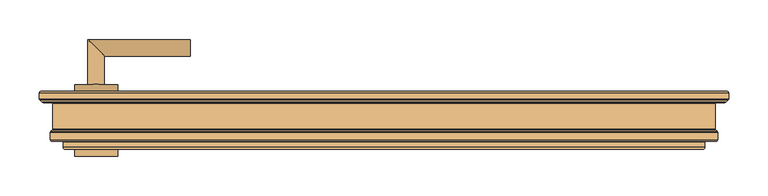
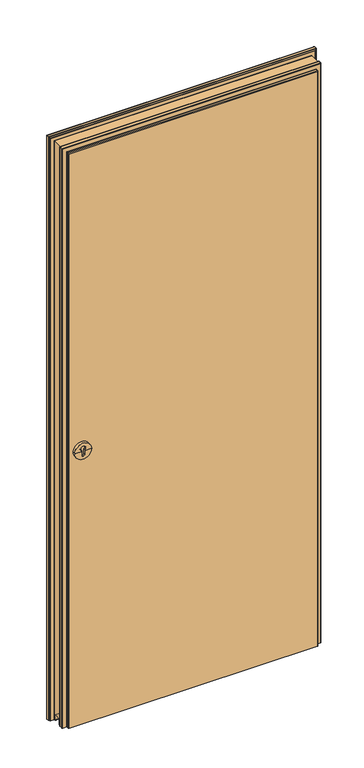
"""IFC4 building model written with IfcOpenShell, lengths in millimetres: door geometry, Peneder_HIGHLINEflat_1-flügelig_V2019 : Zargentyp - 01 - Eck 60 DN."""

from ifc_helpers import new_model, si_unit, frame, origin, place, context, project, spatial, polyline, circle_curve, ellipse_curve, source, transform, mapped, element, save
from ifc_brep_helpers import plane_surface, cylinder_surface, revolved_surface, advanced_brep


def door_bbc19964(model_context):
    return source(origin(), model_context, "Body", "AdvancedBrep", [
        advanced_brep(
        [(-337.5, 56.0, 958.0), (-392.5, 56.0, 958.0), (-392.5, 65.0, 958.0), (-337.5, 65.0, 958.0), (-360.0, 56.0, 958.0), (-360.0, 56.0, 945.8645067), (-370.0, 56.0, 945.8645067), (-370.0, 56.0, 958.0), (-370.0, 56.0, 960.8645067), (-360.0, 56.0, 960.8645067), (-365.0, 65.0, 958.0), (-370.0, 62.0, 945.8645067), (-360.0, 62.0, 945.8645067), (-360.0, 62.0, 960.8645067), (-370.0, 62.0, 960.8645067)],
        [
            (0, 1, circle_curve(frame((-365.0, 56.0, 958.0), z_axis=(0.0, 1.0, 0.0), x_axis=(-1.0, 0.0, 0.0)), 27.5)),
            (1, 2),
            (2, 3, circle_curve(frame((-365.0, 65.0, 958.0), z_axis=(0.0, -1.0, 0.0), x_axis=(-1.0, 0.0, 0.0)), 27.5)),
            (3, 0),
            (1, 0, circle_curve(frame((-365.0, 56.0, 958.0), z_axis=(0.0, 1.0, 0.0), x_axis=(-1.0, 0.0, 0.0)), 27.5)),
            (3, 2, circle_curve(frame((-365.0, 65.0, 958.0), z_axis=(0.0, -1.0, 0.0), x_axis=(-1.0, 0.0, 0.0)), 27.5)),
            (0, 4),
            (4, 5),
            (5, 6, circle_curve(frame((-365.0, 56.0, 945.8645067), z_axis=(0.0, 1.0, 0.0), x_axis=(-1.0, 0.0, 0.0)), 5.0)),
            (6, 7),
            (7, 1),
            (7, 8),
            (8, 9, circle_curve(frame((-365.0, 56.0, 967.690169), z_axis=(0.0, 1.0, 0.0), x_axis=(-1.0, 0.0, 0.0)), 8.4610677)),
            (9, 4),
            (2, 10),
            (10, 3),
            (11, 12, circle_curve(frame((-365.0, 62.0, 945.8645067), z_axis=(0.0, -1.0, 0.0), x_axis=(-1.0, 0.0, 0.0)), 5.0)),
            (12, 13),
            (13, 14, circle_curve(frame((-365.0, 62.0, 967.690169), z_axis=(0.0, -1.0, 0.0), x_axis=(-1.0, 0.0, 0.0)), 8.4610677)),
            (14, 11),
            (11, 6),
            (5, 12),
            (9, 13),
            (8, 14),
        ],
        [
            cylinder_surface(frame((-365.0, 72.1832023, 958.0), z_axis=(0.0, -1.0, 0.0), x_axis=(-1.0, 0.0, 0.0)), 27.5),
            plane_surface(frame((-365.0, 56.0, 958.0), z_axis=(0.0, -1.0, 0.0), x_axis=(-1.0, 0.0, 0.0))),
            plane_surface(frame((-365.0, 65.0, 958.0), z_axis=(0.0, 1.0, 0.0), x_axis=(-1.0, 0.0, 0.0))),
            plane_surface(frame((-370.0, 62.0, 960.8645067), z_axis=(0.0, -1.0, 0.0), x_axis=(0.0, 0.0, 1.0))),
            revolved_surface(polyline([(-370.0, 62.0, 945.8645067), (-370.0, 56.0, 945.8645067)]), (-365.0, 52.0, 945.8645067), (0.0, 1.0, 0.0)),
            plane_surface(frame((-360.0, 62.0, 960.8645067), z_axis=(-1.0, 0.0, 0.0), x_axis=(0.0, -1.0, 0.0))),
            revolved_surface(polyline([(-373.4610677, 62.0, 967.690169), (-373.4610677, 56.0, 967.690169)]), (-365.0, 52.0, 967.690169), (0.0, 1.0, 0.0)),
            plane_surface(frame((-370.0, 62.0, 945.8645067), z_axis=(1.0, 0.0, 0.0), x_axis=(0.0, -1.0, 0.0))),
        ],
        [
            (0, [[1, 2, 3, 4]]),
            (0, [[-2, 5, -4, 6]]),
            (1, [[-1, 7, 8, 9, 10, 11]]),
            (1, [[-5, -11, 12, 13, 14, -7]]),
            (2, [[-3, 15, 16]]),
            (2, [[-6, -16, -15]]),
            (3, [[17, 18, 19, 20]]),
            (4, [[-17, 21, -9, 22]]),
            (5, [[-18, -22, -8, -14, 23]]),
            (6, [[-19, -23, -13, 24]]),
            (7, [[-20, -24, -12, -10, -21]]),
        ],
    ),
        advanced_brep(
        [(-375.5, 147.0, 1050.0), (-354.5, 147.0, 1050.0), (-354.5, 183.0, 1050.0), (-375.5, 204.0, 1050.0), (-245.5, 183.0, 1050.0), (-245.5, 204.0, 1050.0)],
        [
            (0, 1, circle_curve(frame((-365.0, 147.0, 1050.0), z_axis=(0.0, -1.0, 0.0), x_axis=(1.0, 0.0, 0.0)), 10.5)),
            (1, 0, circle_curve(frame((-365.0, 147.0, 1050.0), z_axis=(0.0, -1.0, 0.0), x_axis=(1.0, 0.0, 0.0)), 10.5)),
            (1, 2),
            (2, 3, ellipse_curve(frame((-365.0, 193.5, 1050.0), z_axis=(-0.7071067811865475, -0.7071067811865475, 0.0), x_axis=(0.7071067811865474, -0.7071067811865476, 0.0)), 14.8492424, 10.5)),
            (3, 0),
            (3, 2, ellipse_curve(frame((-365.0, 193.5, 1050.0), z_axis=(-0.7071067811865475, -0.7071067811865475, 0.0), x_axis=(0.7071067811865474, -0.7071067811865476, 0.0)), 14.8492424, 10.5)),
            (2, 4),
            (4, 5, circle_curve(frame((-245.5, 193.5, 1050.0), z_axis=(-1.0, 0.0, 0.0), x_axis=(0.0, -1.0, 0.0)), 10.5)),
            (5, 3),
            (5, 4, circle_curve(frame((-245.5, 193.5, 1050.0), z_axis=(-1.0, 0.0, 0.0), x_axis=(0.0, -1.0, 0.0)), 10.5)),
        ],
        [
            plane_surface(frame((-365.0, 147.0, 1050.0), z_axis=(0.0, -1.0, 0.0), x_axis=(0.0, 0.0, 1.0))),
            cylinder_surface(frame((-365.0, 147.0, 1050.0), z_axis=(0.0, -1.0, 0.0), x_axis=(1.0, 0.0, 0.0)), 10.5),
            cylinder_surface(frame((-365.0, 193.5, 1050.0), z_axis=(-1.0, 0.0, 0.0), x_axis=(0.0, -1.0, 0.0)), 10.5),
            plane_surface(frame((-245.5, 193.5, 1050.0), z_axis=(1.0, 0.0, 0.0), x_axis=(0.0, 0.0, 1.0))),
        ],
        [
            (0, [[1, 2]]),
            (1, [[3, 4, 5, -2]]),
            (1, [[-5, 6, -3, -1]]),
            (2, [[7, 8, 9, -4]]),
            (2, [[-9, 10, -7, -6]]),
            (3, [[-8, -10]]),
        ],
    ),
        advanced_brep(
        [(-337.5, 147.0, 1050.0), (-337.5, 138.0, 1050.0), (-392.5, 138.0, 1050.0), (-392.5, 147.0, 1050.0), (-365.0, 147.0, 1050.0), (-365.0, 138.0, 1050.0)],
        [
            (0, 1),
            (1, 2, circle_curve(frame((-365.0, 138.0, 1050.0), z_axis=(0.0, 1.0, 0.0), x_axis=(-1.0, 0.0, 0.0)), 27.5)),
            (2, 3),
            (3, 0, circle_curve(frame((-365.0, 147.0, 1050.0), z_axis=(0.0, -1.0, 0.0), x_axis=(-1.0, 0.0, 0.0)), 27.5)),
            (2, 1, circle_curve(frame((-365.0, 138.0, 1050.0), z_axis=(0.0, 1.0, 0.0), x_axis=(-1.0, 0.0, 0.0)), 27.5)),
            (0, 3, circle_curve(frame((-365.0, 147.0, 1050.0), z_axis=(0.0, -1.0, 0.0), x_axis=(-1.0, 0.0, 0.0)), 27.5)),
            (4, 0),
            (3, 4),
            (1, 5),
            (5, 2),
        ],
        [
            cylinder_surface(frame((-365.0, 120.2392865, 1050.0), z_axis=(0.0, 1.0, 0.0), x_axis=(-1.0, 0.0, 0.0)), 27.5),
            plane_surface(frame((-365.0, 147.0, 1050.0), z_axis=(0.0, 1.0, 0.0), x_axis=(-1.0, 0.0, 0.0))),
            plane_surface(frame((-365.0, 138.0, 1050.0), z_axis=(0.0, -1.0, 0.0), x_axis=(-1.0, 0.0, 0.0))),
        ],
        [
            (0, [[1, 2, 3, 4]]),
            (0, [[-3, 5, -1, 6]]),
            (1, [[7, -4, 8]]),
            (1, [[-8, -6, -7]]),
            (2, [[9, 10, -2]]),
            (2, [[-10, -9, -5]]),
        ],
    ),
        advanced_brep(
        [(-337.5, 147.0, 958.0), (-337.5, 138.0, 958.0), (-392.5, 138.0, 958.0), (-392.5, 147.0, 958.0), (-370.0, 147.0, 958.0), (-370.0, 147.0, 945.8645067), (-360.0, 147.0, 945.8645067), (-360.0, 147.0, 958.0), (-360.0, 147.0, 960.8645067), (-370.0, 147.0, 960.8645067), (-365.0, 138.0, 958.0), (-370.0, 141.0, 945.8645067), (-370.0, 141.0, 960.8645067), (-360.0, 141.0, 960.8645067), (-360.0, 141.0, 945.8645067)],
        [
            (0, 1),
            (1, 2, circle_curve(frame((-365.0, 138.0, 958.0), z_axis=(0.0, 1.0, 0.0), x_axis=(-1.0, 0.0, 0.0)), 27.5)),
            (2, 3),
            (3, 0, circle_curve(frame((-365.0, 147.0, 958.0), z_axis=(0.0, -1.0, 0.0), x_axis=(-1.0, 0.0, 0.0)), 27.5)),
            (2, 1, circle_curve(frame((-365.0, 138.0, 958.0), z_axis=(0.0, 1.0, 0.0), x_axis=(-1.0, 0.0, 0.0)), 27.5)),
            (0, 3, circle_curve(frame((-365.0, 147.0, 958.0), z_axis=(0.0, -1.0, 0.0), x_axis=(-1.0, 0.0, 0.0)), 27.5)),
            (3, 4),
            (4, 5),
            (5, 6, circle_curve(frame((-365.0, 147.0, 945.8645067), z_axis=(0.0, -1.0, 0.0), x_axis=(-1.0, 0.0, 0.0)), 5.0)),
            (6, 7),
            (7, 0),
            (7, 8),
            (8, 9, circle_curve(frame((-365.0, 147.0, 967.690169), z_axis=(0.0, -1.0, 0.0), x_axis=(-1.0, 0.0, 0.0)), 8.4610677)),
            (9, 4),
            (1, 10),
            (10, 2),
            (11, 12),
            (12, 13, circle_curve(frame((-365.0, 141.0, 967.690169), z_axis=(0.0, 1.0, 0.0), x_axis=(-1.0, 0.0, 0.0)), 8.4610677)),
            (13, 14),
            (14, 11, circle_curve(frame((-365.0, 141.0, 945.8645067), z_axis=(0.0, 1.0, 0.0), x_axis=(-1.0, 0.0, 0.0)), 5.0)),
            (14, 6),
            (5, 11),
            (13, 8),
            (12, 9),
        ],
        [
            cylinder_surface(frame((-365.0, 130.8167977, 958.0), z_axis=(0.0, 1.0, 0.0), x_axis=(-1.0, 0.0, 0.0)), 27.5),
            plane_surface(frame((-365.0, 147.0, 958.0), z_axis=(0.0, 1.0, 0.0), x_axis=(-1.0, 0.0, 0.0))),
            plane_surface(frame((-365.0, 138.0, 958.0), z_axis=(0.0, -1.0, 0.0), x_axis=(-1.0, 0.0, 0.0))),
            plane_surface(frame((-370.0, 141.0, 960.8645067), z_axis=(0.0, 1.0, 0.0), x_axis=(0.0, 0.0, 1.0))),
            revolved_surface(polyline([(-370.0, 141.0, 945.8645067), (-370.0, 147.0, 945.8645067)]), (-365.0, 151.0, 945.8645067), (0.0, -1.0, 0.0)),
            plane_surface(frame((-360.0, 141.0, 960.8645067), z_axis=(-1.0, 0.0, 0.0), x_axis=(0.0, 1.0, 0.0))),
            revolved_surface(polyline([(-373.4610677, 141.0, 967.690169), (-373.4610677, 147.0, 967.690169)]), (-365.0, 151.0, 967.690169), (0.0, -1.0, 0.0)),
            plane_surface(frame((-370.0, 141.0, 945.8645067), z_axis=(1.0, 0.0, 0.0), x_axis=(0.0, 1.0, 0.0))),
        ],
        [
            (0, [[1, 2, 3, 4]]),
            (0, [[5, -1, 6, -3]]),
            (1, [[7, 8, 9, 10, 11, -4]]),
            (1, [[-11, 12, 13, 14, -7, -6]]),
            (2, [[15, 16, -2]]),
            (2, [[-16, -15, -5]]),
            (3, [[17, 18, 19, 20]]),
            (4, [[21, -9, 22, -20]]),
            (5, [[23, -12, -10, -21, -19]]),
            (6, [[24, -13, -23, -18]]),
            (7, [[-22, -8, -14, -24, -17]]),
        ],
    ),
        advanced_brep(
        [(405.0, 65.0, 10.0), (-405.0, 65.0, 10.0), (-407.0, 67.0, 10.0), (-407.0, 74.0, 10.0), (-408.0, 75.0, 10.0), (-421.0, 75.0, 10.0), (-423.0, 77.0, 10.0), (-423.0, 86.1715729, 10.0), (-422.4142136, 87.5857864, 10.0), (-420.2928932, 89.7071068, 10.0), (-420.0, 90.4142136, 10.0), (-420.0, 94.5, 10.0), (420.0, 94.5, 10.0), (420.0, 90.4142136, 10.0), (420.2928932, 89.7071068, 10.0), (422.4142136, 87.5857864, 10.0), (423.0, 86.1715729, 10.0), (423.0, 77.0, 10.0), (421.0, 75.0, 10.0), (408.0, 75.0, 10.0), (407.0, 74.0, 10.0), (407.0, 67.0, 10.0), (-437.0, 128.8284271, 10.0), (-437.0, 136.0, 10.0), (-435.0, 138.0, 10.0), (435.0, 138.0, 10.0), (437.0, 136.0, 10.0), (437.0, 128.8284271, 10.0), (436.4142136, 127.4142136, 10.0), (433.5857864, 124.5857864, 10.0), (432.1715729, 124.0, 10.0), (421.0, 124.0, 10.0), (420.0, 123.0, 10.0), (420.0, 119.5, 10.0), (-420.0, 119.5, 10.0), (-420.0, 123.0, 10.0), (-421.0, 124.0, 10.0), (-432.1715729, 124.0, 10.0), (-433.5857864, 124.5857864, 10.0), (-436.4142136, 127.4142136, 10.0), (405.0, 65.0, 1992.0), (-405.0, 65.0, 1992.0), (-407.0, 67.0, 1994.0), (-407.0, 74.0, 1994.0), (-408.0, 75.0, 1995.0), (408.0, 75.0, 1995.0), (421.0, 75.0, 2008.0), (-421.0, 75.0, 2008.0), (-423.0, 77.0, 2010.0), (-423.0, 86.1715729, 2010.0), (-422.4142136, 87.5857864, 2009.4142136), (-420.2928932, 89.7071068, 2007.2928932), (-420.0, 90.4142136, 2007.0), (-420.0, 123.0, 2007.0), (-420.0, 117.5, 12.0), (-420.0, 117.5, 29.5), (-420.0, 116.5, 30.5), (-420.0, 97.5, 30.5), (-420.0, 96.5, 29.5), (-420.0, 96.5, 12.0), (420.0, 96.5, 12.0), (420.0, 123.0, 2007.0), (420.0, 90.4142136, 2007.0), (420.0, 96.5, 29.5), (420.0, 97.5, 30.5), (420.0, 116.5, 30.5), (420.0, 117.5, 29.5), (420.0, 117.5, 12.0), (420.2928932, 89.7071068, 2007.2928932), (422.4142136, 87.5857864, 2009.4142136), (423.0, 86.1715729, 2010.0), (423.0, 77.0, 2010.0), (407.0, 74.0, 1994.0), (407.0, 67.0, 1994.0), (-437.0, 128.8284271, 2024.0), (-437.0, 136.0, 2024.0), (-435.0, 138.0, 2022.0), (435.0, 138.0, 2022.0), (437.0, 136.0, 2024.0), (437.0, 128.8284271, 2024.0), (436.4142136, 127.4142136, 2023.4142136), (433.5857864, 124.5857864, 2020.5857864), (432.1715729, 124.0, 2019.1715729), (-421.0, 124.0, 2008.0), (421.0, 124.0, 2008.0), (-432.1715729, 124.0, 2019.1715729), (-433.5857864, 124.5857864, 2020.5857864), (-436.4142136, 127.4142136, 2023.4142136)],
        [
            (0, 1),
            (1, 2, circle_curve(frame((-405.0, 67.0, 10.0), z_axis=(0.0, 0.0, -1.0), x_axis=(0.0, -1.0, 0.0)), 2.0)),
            (2, 3),
            (3, 4, circle_curve(frame((-408.0, 74.0, 10.0), z_axis=(0.0, 0.0, 1.0), x_axis=(1.0, 0.0, 0.0)), 1.0)),
            (4, 5),
            (5, 6, circle_curve(frame((-421.0, 77.0, 10.0), z_axis=(0.0, 0.0, -1.0), x_axis=(0.0, -1.0, 0.0)), 2.0)),
            (6, 7),
            (7, 8, circle_curve(frame((-421.0, 86.1715729, 10.0), z_axis=(0.0, 0.0, -1.0), x_axis=(-1.0, 0.0, 0.0)), 2.0)),
            (8, 9),
            (9, 10, circle_curve(frame((-421.0, 90.4142136, 10.0), z_axis=(0.0, 0.0, 1.0), x_axis=(0.7071067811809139, -0.7071067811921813, 0.0)), 1.0)),
            (10, 11),
            (11, 12),
            (12, 13),
            (13, 14, circle_curve(frame((421.0, 90.4142136, 10.0), z_axis=(0.0, 0.0, 1.0), x_axis=(-0.707106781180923, -0.7071067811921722, 0.0)), 1.0)),
            (14, 15),
            (15, 16, circle_curve(frame((421.0, 86.1715729, 10.0), z_axis=(0.0, 0.0, -1.0), x_axis=(1.0, 0.0, 0.0)), 2.0)),
            (16, 17),
            (17, 18, circle_curve(frame((421.0, 77.0, 10.0), z_axis=(0.0, 0.0, -1.0), x_axis=(0.0, -1.0, 0.0)), 2.0)),
            (18, 19),
            (19, 20, circle_curve(frame((408.0, 74.0, 10.0), z_axis=(0.0, 0.0, 1.0), x_axis=(-1.0, 0.0, 0.0)), 1.0)),
            (20, 21),
            (21, 0, circle_curve(frame((405.0, 67.0, 10.0), z_axis=(0.0, 0.0, -1.0), x_axis=(0.0, -1.0, 0.0)), 2.0)),
            (22, 23),
            (23, 24, circle_curve(frame((-435.0, 136.0, 10.0), z_axis=(0.0, 0.0, -1.0), x_axis=(-1.0, 0.0, 0.0)), 2.0)),
            (24, 25),
            (25, 26, circle_curve(frame((435.0, 136.0, 10.0), z_axis=(0.0, 0.0, -1.0), x_axis=(1.0, 0.0, 0.0)), 2.0)),
            (26, 27),
            (27, 28, circle_curve(frame((435.0, 128.8284271, 10.0), z_axis=(0.0, 0.0, -1.0), x_axis=(0.7071067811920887, -0.7071067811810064, 0.0)), 2.0)),
            (28, 29),
            (29, 30, circle_curve(frame((432.1715729, 126.0, 10.0), z_axis=(0.0, 0.0, -1.0), x_axis=(0.0, -1.0, 0.0)), 2.0)),
            (30, 31),
            (31, 32, circle_curve(frame((421.0, 123.0, 10.0), z_axis=(0.0, 0.0, 1.0), x_axis=(-1.0, 0.0, 0.0)), 1.0)),
            (32, 33),
            (33, 34),
            (34, 35),
            (35, 36, circle_curve(frame((-421.0, 123.0, 10.0), z_axis=(0.0, 0.0, 1.0), x_axis=(1.0, 0.0, 0.0)), 1.0)),
            (36, 37),
            (37, 38, circle_curve(frame((-432.1715729, 126.0, 10.0), z_axis=(0.0, 0.0, -1.0), x_axis=(0.0, -1.0, 0.0)), 2.0)),
            (38, 39),
            (39, 22, circle_curve(frame((-435.0, 128.8284271, 10.0), z_axis=(0.0, 0.0, -1.0), x_axis=(-0.7071067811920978, -0.7071067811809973, 0.0)), 2.0)),
            (0, 40),
            (40, 41),
            (41, 1),
            (41, 42, ellipse_curve(frame((-405.0, 67.0, 1992.0), z_axis=(-0.7071067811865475, 0.0, -0.7071067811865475), x_axis=(-0.7071067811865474, 0.0, 0.7071067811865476)), 2.8284271, 2.0)),
            (42, 2),
            (42, 43),
            (43, 3),
            (43, 44, ellipse_curve(frame((-408.0, 74.0, 1995.0), z_axis=(0.7071067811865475, 0.0, 0.7071067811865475), x_axis=(0.7071067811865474, 0.0, -0.7071067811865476)), 1.4142136, 1.0)),
            (44, 4),
            (44, 45),
            (45, 19),
            (18, 46),
            (46, 47),
            (47, 5),
            (47, 48, ellipse_curve(frame((-421.0, 77.0, 2008.0), z_axis=(-0.7071067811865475, 0.0, -0.7071067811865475), x_axis=(-0.7071067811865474, 0.0, 0.7071067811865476)), 2.8284271, 2.0)),
            (48, 6),
            (48, 49),
            (49, 7),
            (49, 50, ellipse_curve(frame((-421.0, 86.1715729, 2008.0), z_axis=(-0.7071067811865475, 0.0, -0.7071067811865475), x_axis=(-0.7071067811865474, 0.0, 0.7071067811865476)), 2.8284271, 2.0)),
            (50, 8),
            (50, 51),
            (51, 9),
            (51, 52, ellipse_curve(frame((-421.0, 90.4142136, 2008.0), z_axis=(0.7071067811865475, 0.0, 0.7071067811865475), x_axis=(0.7071067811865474, 0.0, -0.7071067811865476)), 1.4142136, 1.0)),
            (52, 10),
            (52, 53),
            (53, 35),
            (34, 54, circle_curve(frame((-420.0, 119.5, 12.0), z_axis=(-1.0, 0.0, 0.0), x_axis=(0.0, 1.0, 0.0)), 2.0)),
            (54, 55),
            (55, 56, circle_curve(frame((-420.0, 116.5, 29.5), z_axis=(1.0, 0.0, 0.0), x_axis=(0.0, 1.0, 0.0)), 1.0)),
            (56, 57),
            (57, 58, circle_curve(frame((-420.0, 97.5, 29.5), z_axis=(1.0, 0.0, 0.0), x_axis=(0.0, 1.0, 0.0)), 1.0)),
            (58, 59),
            (59, 11, circle_curve(frame((-420.0, 94.5, 12.0), z_axis=(-1.0, 0.0, 0.0), x_axis=(0.0, 1.0, 0.0)), 2.0)),
            (59, 60),
            (60, 12, circle_curve(frame((420.0, 94.5, 12.0), z_axis=(-1.0, 0.0, 0.0), x_axis=(0.0, 1.0, 0.0)), 2.0)),
            (61, 62),
            (62, 13),
            (60, 63),
            (63, 64, circle_curve(frame((420.0, 97.5, 29.5), z_axis=(-1.0, 0.0, 0.0), x_axis=(0.0, 1.0, 0.0)), 1.0)),
            (64, 65),
            (65, 66, circle_curve(frame((420.0, 116.5, 29.5), z_axis=(-1.0, 0.0, 0.0), x_axis=(0.0, 1.0, 0.0)), 1.0)),
            (66, 67),
            (67, 33, circle_curve(frame((420.0, 119.5, 12.0), z_axis=(1.0, 0.0, 0.0), x_axis=(0.0, 1.0, 0.0)), 2.0)),
            (32, 61),
            (62, 68, ellipse_curve(frame((421.0, 90.4142136, 2008.0), z_axis=(-0.7071067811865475, 0.0, 0.7071067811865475), x_axis=(0.7071067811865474, 0.0, 0.7071067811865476)), 1.4142136, 1.0)),
            (68, 14),
            (68, 69),
            (69, 15),
            (69, 70, ellipse_curve(frame((421.0, 86.1715729, 2008.0), z_axis=(0.7071067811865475, 0.0, -0.7071067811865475), x_axis=(-0.7071067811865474, 0.0, -0.7071067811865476)), 2.8284271, 2.0)),
            (70, 16),
            (70, 71),
            (71, 17),
            (71, 46, ellipse_curve(frame((421.0, 77.0, 2008.0), z_axis=(0.7071067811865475, 0.0, -0.7071067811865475), x_axis=(-0.7071067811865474, 0.0, -0.7071067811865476)), 2.8284271, 2.0)),
            (45, 72, ellipse_curve(frame((408.0, 74.0, 1995.0), z_axis=(-0.7071067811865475, 0.0, 0.7071067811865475), x_axis=(0.7071067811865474, 0.0, 0.7071067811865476)), 1.4142136, 1.0)),
            (72, 20),
            (72, 73),
            (73, 21),
            (73, 40, ellipse_curve(frame((405.0, 67.0, 1992.0), z_axis=(0.7071067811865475, 0.0, -0.7071067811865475), x_axis=(-0.7071067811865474, 0.0, -0.7071067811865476)), 2.8284271, 2.0)),
            (74, 75),
            (75, 23),
            (22, 74),
            (75, 76, ellipse_curve(frame((-435.0, 136.0, 2022.0), z_axis=(-0.7071067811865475, 0.0, -0.7071067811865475), x_axis=(-0.7071067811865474, 0.0, 0.7071067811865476)), 2.8284271, 2.0)),
            (76, 24),
            (76, 77),
            (77, 25),
            (77, 78, ellipse_curve(frame((435.0, 136.0, 2022.0), z_axis=(0.7071067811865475, 0.0, -0.7071067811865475), x_axis=(-0.7071067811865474, 0.0, -0.7071067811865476)), 2.8284271, 2.0)),
            (78, 26),
            (78, 79),
            (79, 27),
            (79, 80, ellipse_curve(frame((435.0, 128.8284271, 2022.0), z_axis=(0.7071067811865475, 0.0, -0.7071067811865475), x_axis=(-0.7071067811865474, 0.0, -0.7071067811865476)), 2.8284271, 2.0)),
            (80, 28),
            (80, 81),
            (81, 29),
            (81, 82, ellipse_curve(frame((432.1715729, 126.0, 2019.1715729), z_axis=(0.7071067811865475, 0.0, -0.7071067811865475), x_axis=(-0.7071067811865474, 0.0, -0.7071067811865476)), 2.8284271, 2.0)),
            (82, 30),
            (83, 84),
            (84, 31),
            (82, 85),
            (85, 37),
            (36, 83),
            (84, 61, ellipse_curve(frame((421.0, 123.0, 2008.0), z_axis=(-0.7071067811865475, 0.0, 0.7071067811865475), x_axis=(0.7071067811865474, 0.0, 0.7071067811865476)), 1.4142136, 1.0)),
            (67, 54),
            (53, 83, ellipse_curve(frame((-421.0, 123.0, 2008.0), z_axis=(0.7071067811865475, 0.0, 0.7071067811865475), x_axis=(0.7071067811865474, 0.0, -0.7071067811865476)), 1.4142136, 1.0)),
            (85, 86, ellipse_curve(frame((-432.1715729, 126.0, 2019.1715729), z_axis=(-0.7071067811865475, 0.0, -0.7071067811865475), x_axis=(-0.7071067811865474, 0.0, 0.7071067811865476)), 2.8284271, 2.0)),
            (86, 38),
            (86, 87),
            (87, 39),
            (87, 74, ellipse_curve(frame((-435.0, 128.8284271, 2022.0), z_axis=(-0.7071067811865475, 0.0, -0.7071067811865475), x_axis=(-0.7071067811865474, 0.0, 0.7071067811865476)), 2.8284271, 2.0)),
            (66, 55),
            (65, 56),
            (64, 57),
            (63, 58),
            (78, 75),
            (74, 79),
            (73, 42),
            (87, 80),
            (86, 81),
            (53, 61),
            (52, 62),
            (51, 68),
            (50, 69),
            (49, 70),
            (48, 71),
            (43, 72),
        ],
        [
            plane_surface(frame((437.0, 65.0, 10.0), z_axis=(0.0, 0.0, -1.0), x_axis=(-1.0, 0.0, 0.0))),
            plane_surface(frame((-437.0, 65.0, 2024.0), z_axis=(0.0, -1.0, 0.0), x_axis=(0.0, 0.0, -1.0))),
            cylinder_surface(frame((-405.0, 67.0, 0.0), z_axis=(0.0, 0.0, 1.0), x_axis=(0.0, -1.0, 0.0)), 2.0),
            plane_surface(frame((-407.0, 74.0, 0.0), z_axis=(-1.0, 0.0, 0.0), x_axis=(0.0, 0.0, 1.0))),
            revolved_surface(polyline([(-407.0, 74.0, 10.0), (-407.0, 74.0, 1996.0000000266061)]), (-408.0, 74.0, 0.0), (0.0, 0.0, -1.0)),
            plane_surface(frame((-421.0, 75.0, 0.0), z_axis=(0.0, -1.0, 0.0), x_axis=(0.0, 0.0, 1.0))),
            cylinder_surface(frame((-421.0, 77.0, 0.0), z_axis=(0.0, 0.0, 1.0), x_axis=(0.0, -1.0, 0.0)), 2.0),
            plane_surface(frame((-423.0, 86.1715729, 0.0), z_axis=(-1.0, 0.0, 0.0), x_axis=(0.0, 0.0, 1.0))),
            cylinder_surface(frame((-421.0, 86.1715729, 0.0), z_axis=(0.0, 0.0, 1.0), x_axis=(-1.0, 0.0, 0.0)), 2.0),
            plane_surface(frame((-420.2928932, 89.7071068, 0.0), z_axis=(-0.7071067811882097, 0.7071067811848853, 0.0), x_axis=(0.0, 0.0, 1.0))),
            revolved_surface(polyline([(-420.2928932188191, 89.70710681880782, 10.0), (-420.2928932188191, 89.70710681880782, 2009.0000000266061)]), (-421.0, 90.4142136, 0.0), (0.0, 0.0, -1.0)),
            plane_surface(frame((-420.0, 123.0, 0.0), z_axis=(-1.0, 0.0, 0.0), x_axis=(0.0, 0.0, 1.0))),
            cylinder_surface(frame((437.0, 94.5, 12.0), z_axis=(-1.0, 0.0, 0.0), x_axis=(0.0, 1.0, 0.0)), 2.0),
            plane_surface(frame((420.0, 123.0, 2007.0), z_axis=(1.0, 0.0, 0.0), x_axis=(0.0, 0.0, -1.0))),
            revolved_surface(polyline([(420.2928932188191, 89.70710681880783, 2009.0000000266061), (420.2928932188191, 89.70710681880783, 9.99999999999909)]), (421.0, 90.4142136, 2024.0), (0.0, 0.0, 1.0000000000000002)),
            plane_surface(frame((420.2928932, 89.7071068, 2007.2928932), z_axis=(0.7071067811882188, 0.7071067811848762, 0.0), x_axis=(0.0, 0.0, -1.0))),
            cylinder_surface(frame((421.0, 86.1715729, 2024.0), z_axis=(0.0, 0.0, -1.0), x_axis=(1.0, 0.0, 0.0)), 2.0),
            plane_surface(frame((423.0, 86.1715729, 2010.0), z_axis=(1.0, 0.0, 0.0), x_axis=(0.0, 0.0, -1.0))),
            cylinder_surface(frame((421.0, 77.0, 2024.0), z_axis=(0.0, 0.0, -1.0), x_axis=(0.0, -1.0, 0.0)), 2.0),
            revolved_surface(polyline([(407.0, 74.0, 1996.0000000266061), (407.0, 74.0, 10.0)]), (408.0, 74.0, 2024.0), (0.0, 0.0, 1.0)),
            plane_surface(frame((407.0, 74.0, 1994.0), z_axis=(1.0, 0.0, 0.0), x_axis=(0.0, 0.0, -1.0))),
            cylinder_surface(frame((405.0, 67.0, 2024.0), z_axis=(0.0, 0.0, -1.0), x_axis=(0.0, -1.0, 0.0)), 2.0),
            plane_surface(frame((-437.0, 138.0, 2024.0), z_axis=(-1.0, 0.0, 0.0), x_axis=(0.0, 0.0, -1.0))),
            cylinder_surface(frame((-435.0, 136.0, 0.0), z_axis=(0.0, 0.0, 1.0), x_axis=(-1.0, 0.0, 0.0)), 2.0),
            plane_surface(frame((437.0, 138.0, 2024.0), z_axis=(0.0, 1.0, 0.0), x_axis=(0.0, 0.0, -1.0))),
            cylinder_surface(frame((435.0, 136.0, 2024.0), z_axis=(0.0, 0.0, -1.0), x_axis=(1.0, 0.0, 0.0)), 2.0),
            plane_surface(frame((437.0, 65.0, 2024.0), z_axis=(1.0, 0.0, 0.0), x_axis=(0.0, 0.0, -1.0))),
            cylinder_surface(frame((435.0, 128.8284271, 2024.0), z_axis=(0.0, 0.0, -1.0), x_axis=(0.7071067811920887, -0.7071067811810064, 0.0)), 2.0),
            plane_surface(frame((436.4142136, 127.4142136, 2023.4142136), z_axis=(0.7071067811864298, -0.7071067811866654, 0.0), x_axis=(0.0, 0.0, -1.0))),
            cylinder_surface(frame((432.1715729, 126.0, 2024.0), z_axis=(0.0, 0.0, -1.0), x_axis=(0.0, -1.0, 0.0)), 2.0),
            plane_surface(frame((-432.1715729, 124.0, 0.0), z_axis=(0.0, -1.0, 0.0), x_axis=(0.0, 0.0, 1.0))),
            revolved_surface(polyline([(420.0, 123.0, 2009.0000000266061), (420.0, 123.0, 10.0)]), (421.0, 123.0, 2024.0), (0.0, 0.0, 1.0)),
            cylinder_surface(frame((437.0, 119.5, 12.0), z_axis=(-1.0, 0.0, 0.0), x_axis=(0.0, 1.0, 0.0)), 2.0),
            revolved_surface(polyline([(-420.0, 123.0, 10.0), (-420.0, 123.0, 2009.0000000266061)]), (-421.0, 123.0, 0.0), (0.0, 0.0, -1.0)),
            cylinder_surface(frame((-432.1715729, 126.0, 0.0), z_axis=(0.0, 0.0, 1.0), x_axis=(0.0, -1.0, 0.0)), 2.0),
            plane_surface(frame((-436.4142136, 127.4142136, 0.0), z_axis=(-0.7071067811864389, -0.7071067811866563, 0.0), x_axis=(0.0, 0.0, 1.0))),
            cylinder_surface(frame((-435.0, 128.8284271, 0.0), z_axis=(0.0, 0.0, 1.0000000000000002), x_axis=(-0.7071067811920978, -0.7071067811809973, 0.0)), 2.0),
            plane_surface(frame((437.0, 117.5, 12.0), z_axis=(0.0, -1.0, 0.0), x_axis=(-1.0, 0.0, 0.0))),
            revolved_surface(polyline([(420.0, 117.5, 29.5), (-420.0, 117.5, 29.5)]), (437.0, 116.5, 29.5), (1.0, 0.0, 0.0)),
            plane_surface(frame((437.0, 116.5, 30.5), z_axis=(0.0, 0.0, -1.0), x_axis=(-1.0, 0.0, 0.0))),
            revolved_surface(polyline([(420.0, 98.5, 29.5), (-420.0, 98.5, 29.5)]), (437.0, 97.5, 29.5), (1.0, 0.0, 0.0)),
            plane_surface(frame((437.0, 96.5, 29.5), z_axis=(0.0, 1.0, 0.0), x_axis=(-1.0, 0.0, 0.0))),
            plane_surface(frame((437.0, 65.0, 2024.0), z_axis=(0.0, 0.0, 1.0), x_axis=(1.0, 0.0, 0.0))),
            cylinder_surface(frame((-437.0, 67.0, 1992.0), z_axis=(1.0, 0.0, 0.0), x_axis=(0.0, -1.0, 0.0)), 2.0),
            cylinder_surface(frame((-437.0, 136.0, 2022.0), z_axis=(1.0, 0.0, 0.0), x_axis=(0.0, 0.0, 1.0)), 2.0),
            cylinder_surface(frame((-437.0, 128.8284271, 2022.0), z_axis=(1.0, 0.0, 0.0), x_axis=(0.0, -0.7071067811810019, 0.7071067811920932)), 2.0),
            plane_surface(frame((-436.4142136, 127.4142136, 2023.4142136), z_axis=(0.0, -0.7071067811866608, 0.7071067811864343), x_axis=(1.0, 0.0, 0.0))),
            cylinder_surface(frame((-437.0, 126.0, 2019.1715729), z_axis=(1.0, 0.0, 0.0), x_axis=(0.0, -1.0, 0.0)), 2.0),
            revolved_surface(polyline([(-422.00000002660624, 123.0, 2007.0), (422.00000002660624, 123.0, 2007.0)]), (-437.0, 123.0, 2008.0), (-1.0, 0.0, 0.0)),
            plane_surface(frame((-420.0, 123.0, 2007.0), z_axis=(0.0, 0.0, 1.0), x_axis=(1.0, 0.0, 0.0))),
            revolved_surface(polyline([(-422.00000002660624, 89.70710681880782, 2007.292893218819), (422.00000002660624, 89.70710681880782, 2007.292893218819)]), (-437.0, 90.4142136, 2008.0), (-1.0, 0.0, 0.0)),
            plane_surface(frame((-420.2928932, 89.7071068, 2007.2928932), z_axis=(0.0, 0.7071067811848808, 0.7071067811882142), x_axis=(1.0, 0.0, 0.0))),
            cylinder_surface(frame((-437.0, 86.1715729, 2008.0), z_axis=(1.0, 0.0, 0.0), x_axis=(0.0, 0.0, 1.0)), 2.0),
            plane_surface(frame((-423.0, 86.1715729, 2010.0), z_axis=(0.0, 0.0, 1.0), x_axis=(1.0, 0.0, 0.0))),
            cylinder_surface(frame((-437.0, 77.0, 2008.0), z_axis=(1.0, 0.0, 0.0), x_axis=(0.0, -1.0, 0.0)), 2.0),
            revolved_surface(polyline([(-409.00000002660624, 74.0, 1994.0), (409.00000002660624, 74.0, 1994.0)]), (-437.0, 74.0, 1995.0), (-1.0, 0.0, 0.0)),
            plane_surface(frame((-407.0, 74.0, 1994.0), z_axis=(0.0, 0.0, 1.0), x_axis=(1.0, 0.0, 0.0))),
        ],
        [
            (0, [[1, 2, 3, 4, 5, 6, 7, 8, 9, 10, 11, 12, 13, 14, 15, 16, 17, 18, 19, 20, 21, 22]]),
            (0, [[23, 24, 25, 26, 27, 28, 29, 30, 31, 32, 33, 34, 35, 36, 37, 38, 39, 40]]),
            (1, [[-1, 41, 42, 43]]),
            (2, [[44, 45, -2, -43]]),
            (3, [[46, 47, -3, -45]]),
            (4, [[48, 49, -4, -47]]),
            (5, [[50, 51, -19, 52, 53, 54, -5, -49]]),
            (6, [[55, 56, -6, -54]]),
            (7, [[57, 58, -7, -56]]),
            (8, [[59, 60, -8, -58]]),
            (9, [[61, 62, -9, -60]]),
            (10, [[63, 64, -10, -62]]),
            (11, [[65, 66, -35, 67, 68, 69, 70, 71, 72, 73, -11, -64]]),
            (12, [[74, 75, -12, -73]]),
            (13, [[76, 77, -13, -75, 78, 79, 80, 81, 82, 83, -33, 84]]),
            (14, [[85, 86, -14, -77]]),
            (15, [[87, 88, -15, -86]]),
            (16, [[89, 90, -16, -88]]),
            (17, [[91, 92, -17, -90]]),
            (18, [[93, -52, -18, -92]]),
            (19, [[94, 95, -20, -51]]),
            (20, [[96, 97, -21, -95]]),
            (21, [[98, -41, -22, -97]]),
            (22, [[99, 100, -23, 101]]),
            (23, [[102, 103, -24, -100]]),
            (24, [[-25, -103, 104, 105]]),
            (25, [[106, 107, -26, -105]]),
            (26, [[108, 109, -27, -107]]),
            (27, [[110, 111, -28, -109]]),
            (28, [[112, 113, -29, -111]]),
            (29, [[114, 115, -30, -113]]),
            (30, [[116, 117, -31, -115, 118, 119, -37, 120]]),
            (31, [[121, -84, -32, -117]]),
            (32, [[122, -67, -34, -83]]),
            (33, [[123, -120, -36, -66]]),
            (34, [[124, 125, -38, -119]]),
            (35, [[126, 127, -39, -125]]),
            (36, [[128, -101, -40, -127]]),
            (37, [[129, -68, -122, -82]]),
            (38, [[130, -69, -129, -81]]),
            (39, [[131, -70, -130, -80]]),
            (40, [[132, -71, -131, -79]]),
            (41, [[-74, -72, -132, -78]]),
            (42, [[-108, 133, -99, 134]]),
            (43, [[-44, -42, -98, 135]]),
            (44, [[-102, -133, -106, -104]]),
            (45, [[-128, 136, -110, -134]]),
            (46, [[-126, 137, -112, -136]]),
            (47, [[-124, -118, -114, -137]]),
            (48, [[-116, -123, 138, -121]]),
            (49, [[-65, 139, -76, -138]]),
            (50, [[-63, 140, -85, -139]]),
            (51, [[-61, 141, -87, -140]]),
            (52, [[-59, 142, -89, -141]]),
            (53, [[-57, 143, -91, -142]]),
            (54, [[-55, -53, -93, -143]]),
            (55, [[-50, -48, 144, -94]]),
            (56, [[-46, -135, -96, -144]]),
        ],
    ),
    ])


if __name__ == "__main__":
    model = new_model("IFC4")
    model_context = context("Model", 3, world=origin())
    ifc_project = project(units=[si_unit("LENGTHUNIT", "METRE", prefix="MILLI")], contexts=[model_context])
    site = spatial("IfcSite", under=ifc_project)
    building = spatial("IfcBuilding", under=site)
    placement = place(None, origin())
    door_shape = door_bbc19964(model_context)
    element("IfcDoor", 1, ObjectType="Peneder_HIGHLINEflat_1-flügelig_V2019 : Zargentyp - 01 - Eck 60 DN", at=placement, inside=building, context=model_context, shape_type="MappedRepresentation", body=[
        mapped(door_shape, transform((0.0, 0.0, 0.0), x_axis=(1.0, 0.0, 0.0), y_axis=(0.0, 1.0, 0.0), z_axis=(0.0, 0.0, 1.0))),
    ])
    save(model, "model.ifc")
